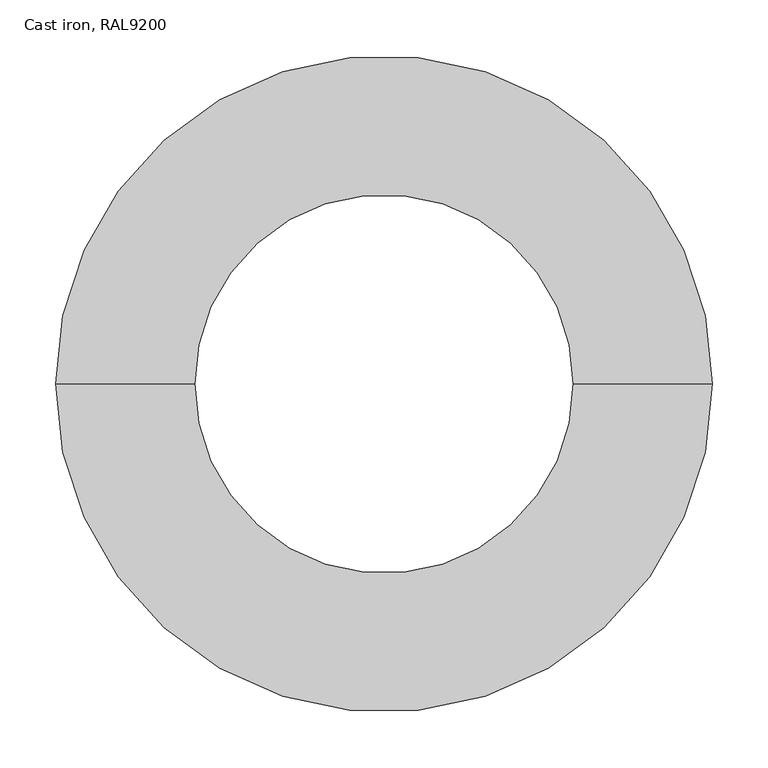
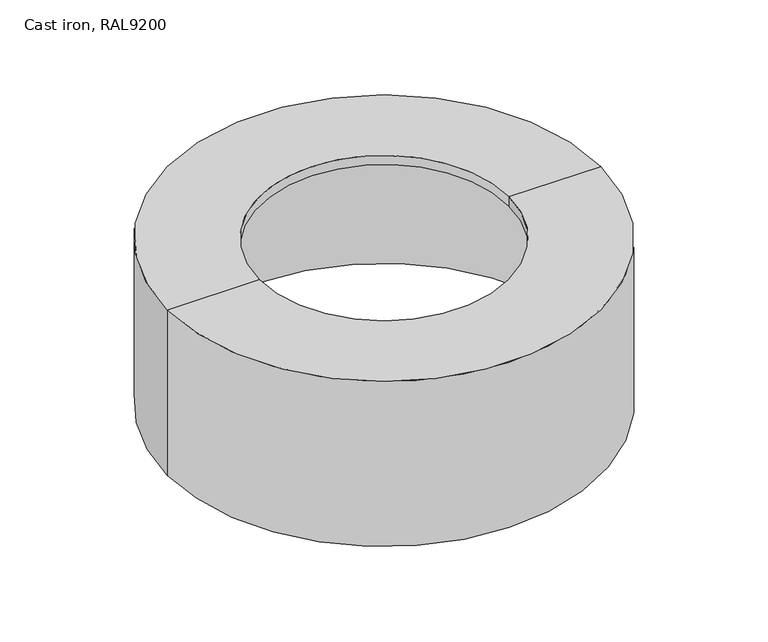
"""IFC4 building model written with IfcOpenShell, lengths in millimetres: pipe fitting geometry, Wavin_PipeFitting_QBicPlusZDoNotUseAccessCap : Cast iron, RAL9200."""

from ifc_helpers import new_model, si_unit, frame, origin, place, context, project, spatial, polyline, circle_curve, source, transform, mapped, element, save
from ifc_brep_helpers import plane_surface, cylinder_surface, revolved_surface, advanced_brep


def cast_iron_ral9200_8530f1dc(model_context):
    return source(origin(), model_context, "Body", "AdvancedBrep", [
        advanced_brep(
        [(170.0, 0.0, 0.0), (-170.0, 0.0, 0.0), (-170.0, 0.0, -13.0), (170.0, 0.0, -13.0), (294.65, 0.0, 0.0), (-294.65, 0.0, 0.0), (294.65, 0.0, -238.0), (-294.65, 0.0, -238.0), (288.15, 0.0, -238.0), (-288.15, 0.0, -238.0), (288.15, 0.0, -13.0), (-288.15, 0.0, -13.0)],
        [
            (0, 1, circle_curve(frame((0.0, 0.0, 0.0), z_axis=(0.0, 0.0, 1.0), x_axis=(-1.0, 0.0, 0.0)), 170.0)),
            (1, 2),
            (2, 3, circle_curve(frame((0.0, 0.0, -13.0), z_axis=(0.0, 0.0, -1.0), x_axis=(-1.0, 0.0, 0.0)), 170.0)),
            (3, 0),
            (1, 0, circle_curve(frame((0.0, 0.0, 0.0), z_axis=(0.0, 0.0, 1.0), x_axis=(-1.0, 0.0, 0.0)), 170.0)),
            (3, 2, circle_curve(frame((0.0, 0.0, -13.0), z_axis=(0.0, 0.0, -1.0), x_axis=(-1.0, 0.0, 0.0)), 170.0)),
            (4, 5, circle_curve(frame((0.0, 0.0, 0.0), z_axis=(0.0, 0.0, 1.0), x_axis=(-1.0, 0.0, 0.0)), 294.65)),
            (5, 1),
            (0, 4),
            (5, 4, circle_curve(frame((0.0, 0.0, 0.0), z_axis=(0.0, 0.0, 1.0), x_axis=(-1.0, 0.0, 0.0)), 294.65)),
            (6, 7, circle_curve(frame((0.0, 0.0, -238.0), z_axis=(0.0, 0.0, 1.0), x_axis=(-1.0, 0.0, 0.0)), 294.65)),
            (7, 5),
            (4, 6),
            (7, 6, circle_curve(frame((0.0, 0.0, -238.0), z_axis=(0.0, 0.0, 1.0), x_axis=(-1.0, 0.0, 0.0)), 294.65)),
            (8, 9, circle_curve(frame((0.0, 0.0, -238.0), z_axis=(0.0, 0.0, 1.0), x_axis=(-1.0, 0.0, 0.0)), 288.15)),
            (9, 7),
            (6, 8),
            (9, 8, circle_curve(frame((0.0, 0.0, -238.0), z_axis=(0.0, 0.0, 1.0), x_axis=(-1.0, 0.0, 0.0)), 288.15)),
            (10, 11, circle_curve(frame((0.0, 0.0, -13.0), z_axis=(0.0, 0.0, 1.0), x_axis=(-1.0, 0.0, 0.0)), 288.15)),
            (11, 9),
            (8, 10),
            (11, 10, circle_curve(frame((0.0, 0.0, -13.0), z_axis=(0.0, 0.0, 1.0), x_axis=(-1.0, 0.0, 0.0)), 288.15)),
            (2, 11),
            (10, 3),
        ],
        [
            revolved_surface(polyline([(-170.0, 0.0, -13.0), (-170.0, 0.0, 0.0)]), (0.0, 0.0, -381.0), (0.0, 0.0, -1.0)),
            plane_surface(frame((0.0, 0.0, 0.0), z_axis=(0.0, 0.0, 1.0), x_axis=(-1.0, 0.0, 0.0))),
            cylinder_surface(frame((0.0, 0.0, -381.0), z_axis=(0.0, 0.0, -1.0), x_axis=(-1.0, 0.0, 0.0)), 294.65),
            plane_surface(frame((0.0, 0.0, -238.0), z_axis=(0.0, 0.0, -1.0), x_axis=(-1.0, 0.0, 0.0))),
            revolved_surface(polyline([(-288.15, 0.0, -238.0), (-288.15, 0.0, -13.0)]), (0.0, 0.0, -381.0), (0.0, 0.0, -1.0)),
            plane_surface(frame((0.0, 0.0, -13.0), z_axis=(0.0, 0.0, -1.0), x_axis=(-1.0, 0.0, 0.0))),
        ],
        [
            (0, [[1, 2, 3, 4]]),
            (0, [[5, -4, 6, -2]]),
            (1, [[7, 8, -1, 9]]),
            (1, [[10, -9, -5, -8]]),
            (2, [[11, 12, -7, 13]]),
            (2, [[14, -13, -10, -12]]),
            (3, [[15, 16, -11, 17]]),
            (3, [[18, -17, -14, -16]]),
            (4, [[19, 20, -15, 21]]),
            (4, [[22, -21, -18, -20]]),
            (5, [[-3, 23, -19, 24]]),
            (5, [[-6, -24, -22, -23]]),
        ],
    ),
    ])


if __name__ == "__main__":
    model = new_model("IFC4")
    model_context = context("Model", 3, world=origin())
    ifc_project = project(units=[si_unit("LENGTHUNIT", "METRE", prefix="MILLI")], contexts=[model_context])
    site = spatial("IfcSite", under=ifc_project)
    building = spatial("IfcBuilding", under=site)
    placement = place(None, origin())
    cast_iron_ral9200_shape = cast_iron_ral9200_8530f1dc(model_context)
    element("IfcPipeFitting", 1, ObjectType="Wavin_PipeFitting_QBicPlusZDoNotUseAccessCap : Cast iron, RAL9200", at=placement, inside=building, context=model_context, shape_type="MappedRepresentation", body=[
        mapped(cast_iron_ral9200_shape, transform((0.0, 0.0, 0.0), x_axis=(1.0, 0.0, 0.0), y_axis=(0.0, 1.0, 0.0), z_axis=(0.0, 0.0, 1.0))),
    ])
    save(model, "model.ifc")
